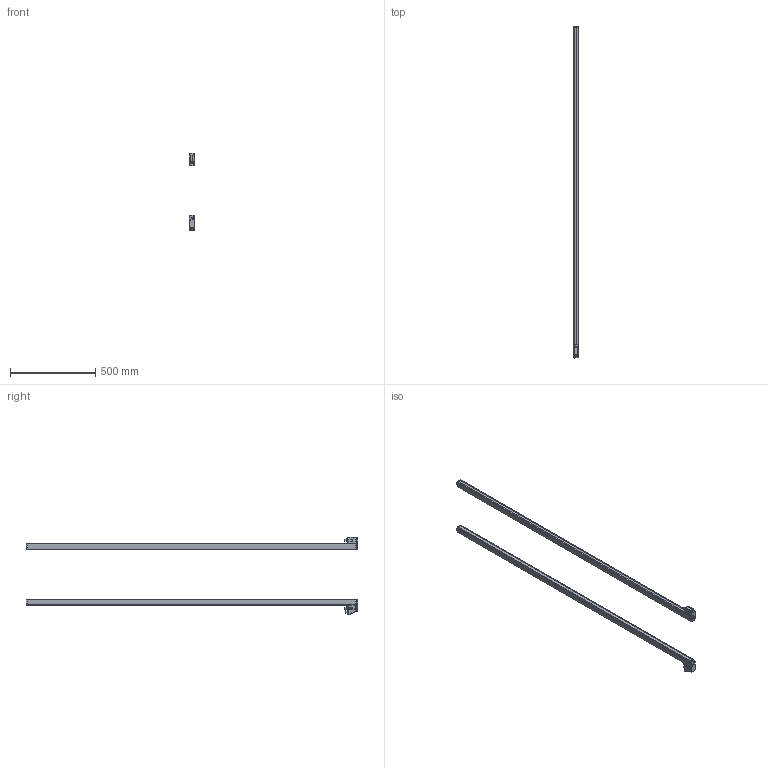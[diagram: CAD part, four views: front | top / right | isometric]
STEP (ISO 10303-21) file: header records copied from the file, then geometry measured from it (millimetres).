
FILE_DESCRIPTION(/* description */ (''),/* implementation_level */ '2;1');
FILE_NAME(/* name */ '3D_CML_700_1920_R.stp',/* time_stamp */ '2013-03-07T14:34:07+01:00',/* author */ (''),/* organization */ (''),/* preprocessor_version */ 'ST-DEVELOPER v11',/* originating_system */ 'SIEMENS UGS NX 6.0',/* authorisation */ '');
FILE_SCHEMA (('AUTOMOTIVE_DESIGN { 1 0 10303 214 1 1 1 1 }'));
Length unit declared in the file: millimetre
Products named in the file (10): M12-X_A; 002491_00.0; 001890_B; 002487_00.0; 002486_00.0; 002485_00.0; 002501_00.0_MODEL; 002492_00.1; 002484_00.1_MODEL; 002489_20.0
Assembly tree (10 placements, depth 4):
  002489_20.0
    002484_00.1_MODEL
      002485_00.0
      002486_00.0
      002487_00.0
      001890_B
    002492_00.1
      002485_00.0
      002491_00.0
      002501_00.0_MODEL
        M12-X_A
Bounding box: 29.39 x 1943.2 x 453.44 mm (x, y, z)
Volume: 3495886.1 mm3; surface area: 649756.8 mm2
Topology: 9 solids, 18 shells, 4040 faces, 10974 edges, 7006 vertices
Faces by surface type: plane 1996, cylinder 943, bspline 428, cone 260, torus 156, revolution 121, extrusion 87, sphere 49
Full cylindrical faces by diameter (mm): 0.4 x1, 0.75 x1, 0.85 x1, 1 x11, 1.25 x7, 1.4 x1, 2 x4, 2.5 x1, 2.6 x13, 3.2 x4, 3.3 x1, 3.5 x10, 3.7 x2, 4 x7, 4.2 x3, 6 x2, 6.7 x8, 7 x5, 8 x1, 8.6 x2, 9.3 x2, 10 x1, 10.11 x1, 12 x2, 13.98 x1, 15.6 x1, 18 x2
Entity records: 206107 total; most frequent: CARTESIAN_POINT 102243, ORIENTED_EDGE 20910, DIRECTION 18712, EDGE_CURVE 10455, VERTEX_POINT 6800, AXIS2_PLACEMENT_3D 6322, VECTOR 5947, LINE 5860
